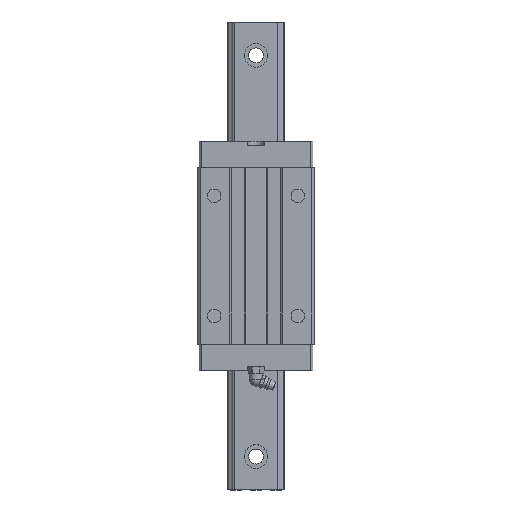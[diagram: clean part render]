
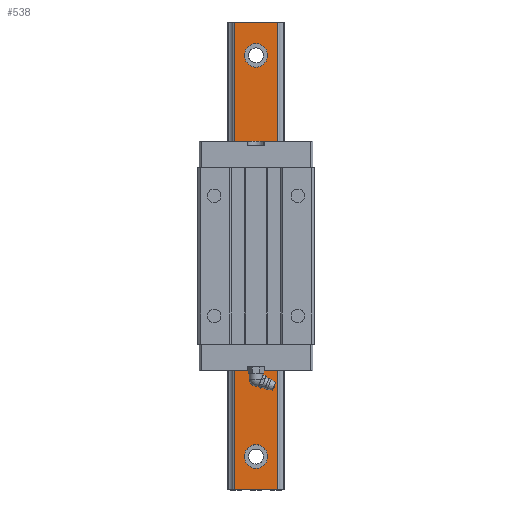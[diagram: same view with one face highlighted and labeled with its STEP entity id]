
A CAD part, top view. The second image highlights one B-rep face of the part: STEP entity #538.
In plain terms, the highlighted planar face has unit normal (0, 0, 1).
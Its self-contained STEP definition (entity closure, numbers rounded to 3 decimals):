
#232=FACE_BOUND('',#1052,.T.);
#233=FACE_BOUND('',#1053,.T.);
#234=FACE_BOUND('',#1055,.T.);
#235=FACE_BOUND('',#1056,.T.);
#356=CIRCLE('',#3584,7.);
#357=CIRCLE('',#3585,7.);
#358=CIRCLE('',#3586,7.);
#359=CIRCLE('',#3587,7.);
#538=ADVANCED_FACE('',(#232,#233,#835,#234,#235),#685,.F.);
#685=PLANE('',#3588);
#835=FACE_OUTER_BOUND('',#1054,.T.);
#1052=EDGE_LOOP('',(#1744));
#1053=EDGE_LOOP('',(#1745));
#1054=EDGE_LOOP('',(#1746,#1747,#1748,#1749));
#1055=EDGE_LOOP('',(#1750));
#1056=EDGE_LOOP('',(#1751));
#1744=ORIENTED_EDGE('',*,*,#2652,.F.);
#1745=ORIENTED_EDGE('',*,*,#2653,.F.);
#1746=ORIENTED_EDGE('',*,*,#2654,.T.);
#1747=ORIENTED_EDGE('',*,*,#2655,.F.);
#1748=ORIENTED_EDGE('',*,*,#2656,.F.);
#1749=ORIENTED_EDGE('',*,*,#2657,.T.);
#1750=ORIENTED_EDGE('',*,*,#2658,.F.);
#1751=ORIENTED_EDGE('',*,*,#2659,.F.);
#2246=VERTEX_POINT('',#5499);
#2247=VERTEX_POINT('',#5501);
#2248=VERTEX_POINT('',#5503);
#2249=VERTEX_POINT('',#5504);
#2250=VERTEX_POINT('',#5506);
#2251=VERTEX_POINT('',#5508);
#2252=VERTEX_POINT('',#5511);
#2253=VERTEX_POINT('',#5513);
#2652=EDGE_CURVE('',#2246,#2246,#356,.T.);
#2653=EDGE_CURVE('',#2247,#2247,#357,.T.);
#2654=EDGE_CURVE('',#2248,#2249,#2985,.T.);
#2655=EDGE_CURVE('',#2250,#2249,#2986,.T.);
#2656=EDGE_CURVE('',#2251,#2250,#2987,.T.);
#2657=EDGE_CURVE('',#2251,#2248,#2988,.T.);
#2658=EDGE_CURVE('',#2252,#2252,#358,.T.);
#2659=EDGE_CURVE('',#2253,#2253,#359,.T.);
#2985=LINE('',#5502,#3275);
#2986=LINE('',#5505,#3276);
#2987=LINE('',#5507,#3277);
#2988=LINE('',#5509,#3278);
#3275=VECTOR('',#4369,1.);
#3276=VECTOR('',#4370,1.);
#3277=VECTOR('',#4371,1.);
#3278=VECTOR('',#4372,1.);
#3584=AXIS2_PLACEMENT_3D('',#5498,#4365,#4366);
#3585=AXIS2_PLACEMENT_3D('',#5500,#4367,#4368);
#3586=AXIS2_PLACEMENT_3D('',#5510,#4373,#4374);
#3587=AXIS2_PLACEMENT_3D('',#5512,#4375,#4376);
#3588=AXIS2_PLACEMENT_3D('',#5514,#4377,#4378);
#4365=DIRECTION('',(0.,0.,1.));
#4366=DIRECTION('',(0.,1.,0.));
#4367=DIRECTION('',(0.,0.,1.));
#4368=DIRECTION('',(0.,1.,0.));
#4369=DIRECTION('',(1.,0.,0.));
#4370=DIRECTION('',(0.,-1.,0.));
#4371=DIRECTION('',(1.,0.,0.));
#4372=DIRECTION('',(0.,-1.,0.));
#4373=DIRECTION('',(0.,0.,1.));
#4374=DIRECTION('',(0.,1.,0.));
#4375=DIRECTION('',(0.,0.,1.));
#4376=DIRECTION('',(0.,1.,0.));
#4377=DIRECTION('',(0.,0.,-1.));
#4378=DIRECTION('',(-1.,0.,0.));
#5498=CARTESIAN_POINT('',(0.,180.,27.4));
#5499=CARTESIAN_POINT('',(0.,187.,27.4));
#5500=CARTESIAN_POINT('',(0.,20.,27.4));
#5501=CARTESIAN_POINT('',(0.,27.,27.4));
#5502=CARTESIAN_POINT('',(-13.15,0.,27.4));
#5503=CARTESIAN_POINT('',(-13.15,0.,27.4));
#5504=CARTESIAN_POINT('',(13.15,0.,27.4));
#5505=CARTESIAN_POINT('',(13.15,280.,27.4));
#5506=CARTESIAN_POINT('',(13.15,280.,27.4));
#5507=CARTESIAN_POINT('',(-13.15,280.,27.4));
#5508=CARTESIAN_POINT('',(-13.15,280.,27.4));
#5509=CARTESIAN_POINT('',(-13.15,280.,27.4));
#5510=CARTESIAN_POINT('',(0.,100.,27.4));
#5511=CARTESIAN_POINT('',(0.,107.,27.4));
#5512=CARTESIAN_POINT('',(0.,260.,27.4));
#5513=CARTESIAN_POINT('',(0.,267.,27.4));
#5514=CARTESIAN_POINT('',(-13.15,280.,27.4));
